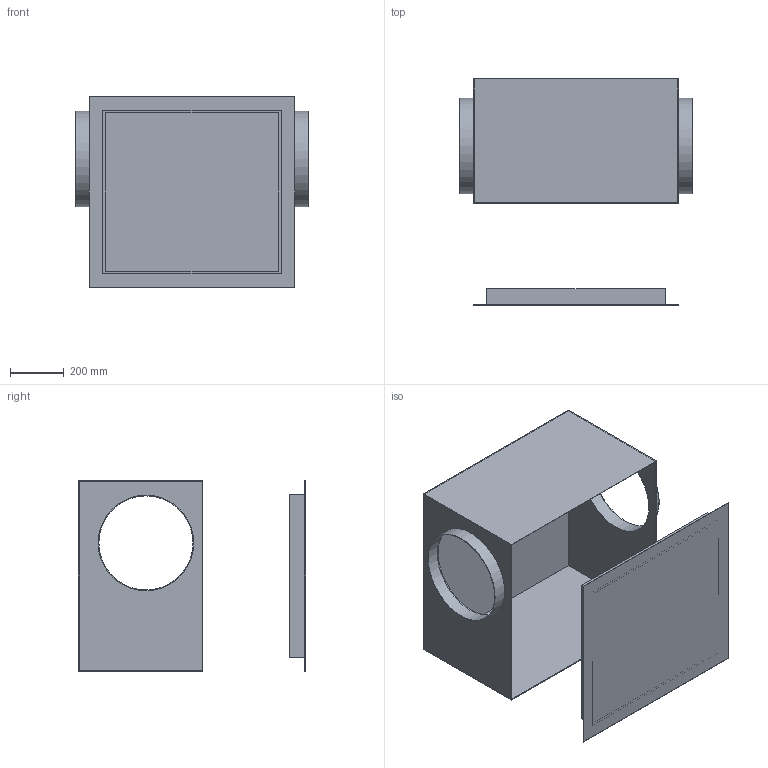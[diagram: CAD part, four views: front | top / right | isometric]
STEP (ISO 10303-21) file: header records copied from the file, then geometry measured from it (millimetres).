
FILE_DESCRIPTION(/* description */ (''),/* implementation_level */ '2;1');
FILE_NAME(/* name */ 'Z:\Output\SB EC 355-06139-001.stp',/* time_stamp */ '2017-05-05T17:02:30+02:00',/* author */ ('engineering1'),/* organization */ (''),/* preprocessor_version */ 'ST-DEVELOPER v16.5',/* originating_system */ 'Autodesk Inventor 2017',/* authorisation */ '');
FILE_SCHEMA (('AUTOMOTIVE_DESIGN { 1 0 10303 214 3 1 1 }'));
Length unit declared in the file: millimetre
Products named in the file (1): SB-1
Bounding box: 863 x 844.5 x 708 mm (x, y, z)
Volume: 7348461.5 mm3; surface area: 5013269 mm2
Topology: 2 solids, 2 shells, 33 faces, 72 edges, 48 vertices
Faces by surface type: plane 29, cylinder 4
Full cylindrical faces by diameter (mm): 350 x2, 355 x2
Entity records: 911 total; most frequent: CARTESIAN_POINT 150, DIRECTION 144, ORIENTED_EDGE 136, EDGE_CURVE 68, LINE 60, VECTOR 60, VERTEX_POINT 48, EDGE_LOOP 46
